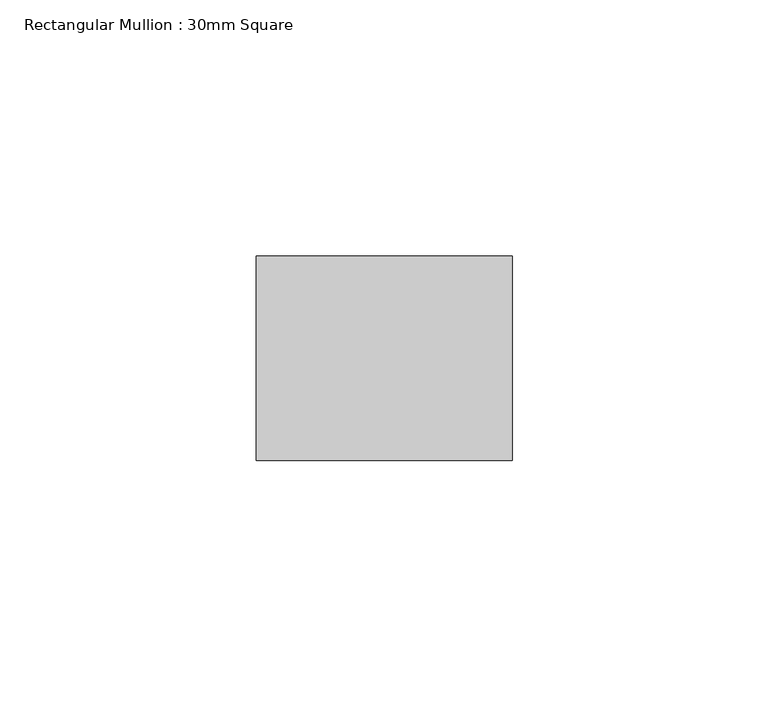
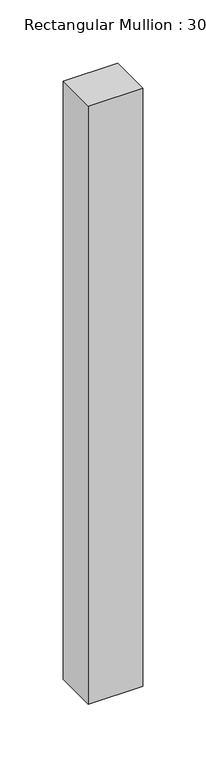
"""IFC4 building model written with IfcOpenShell, lengths in millimetres: member geometry, Rectangular Mullion : 30mm Square."""

import ifcopenshell
import ifcopenshell.guid

model = None  # the IFC model being written
_history = None  # IfcOwnerHistory: only IFC2X3 demands one
_inside = {}  # id of a spatial element -> (the spatial element, [elements in it])
_under = {}  # id of a project, library or spatial element -> (it, [spatial elements below it])
_declared = {}  # id of a project -> (the project, [libraries it declares])
_typed = {}  # id of a type object -> (the type object, [elements of that type])
_made_of = {}  # id of a material, layer set ... -> (it, [elements and type objects made of it])


def new_model(schema):
    """Start an empty IFC model of exactly this schema.

    Asked for "IFC4X3", IfcOpenShell would pick the latest addendum, in which some entities
    have other attributes; the version numbers below select the first issue.
    IFC2X3 requires an IfcOwnerHistory on every rooted entity: one is made here for all.
    """
    global model, _history
    if schema == "IFC4X3":
        model = ifcopenshell.file(schema_version=(4, 3, 0, 0))
    else:
        model = ifcopenshell.file(schema=schema)
    _inside.clear()
    _under.clear()
    _declared.clear()
    _typed.clear()
    _made_of.clear()
    _history = None
    if model.schema == "IFC2X3":
        org = make("IfcOrganization", Name="unknown")
        user = make(
            "IfcPersonAndOrganization",
            ThePerson=make("IfcPerson", FamilyName="unknown"),
            TheOrganization=org,
        )
        app = make(
            "IfcApplication",
            ApplicationDeveloper=org,
            Version="unknown",
            ApplicationFullName="unknown",
            ApplicationIdentifier="unknown",
        )
        _history = make(
            "IfcOwnerHistory",
            OwningUser=user,
            OwningApplication=app,
            ChangeAction="ADDED",
            CreationDate=0,
        )
    return model


def make(cls, **values):
    """One entity of the class cls with the attributes given. An attribute that is None is left unset."""
    return model.create_entity(
        cls, **{name: value for name, value in values.items() if value is not None}
    )


def rooted(cls, **values):
    """An entity with a GlobalId (a new one), such as an element, a storey or a relation."""
    return make(cls, GlobalId=ifcopenshell.guid.new(), OwnerHistory=_history, **values)


def si_unit(unit_type, name, prefix=None):
    """IfcSIUnit, for example si_unit("LENGTHUNIT", "METRE", prefix="MILLI")."""
    return make("IfcSIUnit", UnitType=unit_type, Prefix=prefix, Name=name)


def assignment(units):
    """IfcUnitAssignment: the units of a project."""
    return None if units is None else make("IfcUnitAssignment", Units=units)


def point(xyz):
    """IfcCartesianPoint."""
    return None if xyz is None else make("IfcCartesianPoint", Coordinates=xyz)


def direction(xyz):
    """IfcDirection."""
    return None if xyz is None else make("IfcDirection", DirectionRatios=xyz)


def frame(location, z_axis=None, x_axis=None):
    """IfcAxis2Placement3D, a coordinate frame: its origin and axes. An axis left out is left unset."""
    return make(
        "IfcAxis2Placement3D",
        Location=point(location),
        Axis=direction(z_axis),
        RefDirection=direction(x_axis),
    )


def origin():
    """The frame at (0, 0, 0) with its axes left unset."""
    return frame((0.0, 0.0, 0.0))


def place(relative_to, where):
    """IfcLocalPlacement: puts the frame where relative to a parent placement (None: the world)."""
    return make(
        "IfcLocalPlacement", PlacementRelTo=relative_to, RelativePlacement=where
    )


def context(
    kind, dimensions, precision=None, world=None, true_north=None, identifier=None
):
    """IfcGeometricRepresentationContext, for example the 3D "Model" context."""
    return make(
        "IfcGeometricRepresentationContext",
        ContextIdentifier=identifier,
        ContextType=kind,
        CoordinateSpaceDimension=dimensions,
        Precision=precision,
        WorldCoordinateSystem=world,
        TrueNorth=true_north,
    )


def project(units=None, contexts=None):
    """IfcProject with its units and contexts."""
    return rooted(
        "IfcProject",
        Name="project",
        RepresentationContexts=contexts,
        UnitsInContext=assignment(units),
    )


def spatial(cls, under=None, at=None, **own):
    """A site, building, storey or space (cls), placed at a placement, below another one or the project."""
    s = rooted(cls, ObjectPlacement=at, **own)
    if under is not None:
        _under.setdefault(under.id(), (under, []))[1].append(s)
    return s


def polyline(points):
    """IfcPolyline through the points."""
    return make("IfcPolyline", Points=[point(p) for p in points])


def outline(outer, holes=None, kind="AREA"):
    """IfcArbitraryClosedProfileDef: a profile drawn as a closed curve; with holes, ...WithVoids."""
    if holes is None:
        return make("IfcArbitraryClosedProfileDef", ProfileType=kind, OuterCurve=outer)
    return make(
        "IfcArbitraryProfileDefWithVoids",
        ProfileType=kind,
        OuterCurve=outer,
        InnerCurves=holes,
    )


def extrude(swept, where, along, depth):
    """IfcExtrudedAreaSolid: the profile swept, set in the frame where, extruded along a direction by depth."""
    return make(
        "IfcExtrudedAreaSolid",
        SweptArea=swept,
        Position=where,
        ExtrudedDirection=direction(along),
        Depth=depth,
    )


def shape(context_of_items, identifier, shape_type, items):
    """IfcShapeRepresentation: the items that make up one representation, for example the "Body"."""
    return make(
        "IfcShapeRepresentation",
        ContextOfItems=context_of_items,
        RepresentationIdentifier=identifier,
        RepresentationType=shape_type,
        Items=items,
    )


def source(mapping_origin, context_of_items, identifier, shape_type, items):
    """IfcRepresentationMap: a shape defined once, which mapped items show again and again."""
    return make(
        "IfcRepresentationMap",
        MappingOrigin=mapping_origin,
        MappedRepresentation=shape(context_of_items, identifier, shape_type, items),
    )


def transform(
    local_origin,
    x_axis=None,
    y_axis=None,
    z_axis=None,
    scale=None,
    scale2=None,
    scale3=None,
    uniform=True,
):
    """IfcCartesianTransformationOperator3D, or its non-uniform kind. x_axis, y_axis, z_axis: its Axis1, 2, 3."""
    if uniform:
        return make(
            "IfcCartesianTransformationOperator3D",
            Axis1=direction(x_axis),
            Axis2=direction(y_axis),
            LocalOrigin=point(local_origin),
            Scale=scale,
            Axis3=direction(z_axis),
        )
    return make(
        "IfcCartesianTransformationOperator3DnonUniform",
        Axis1=direction(x_axis),
        Axis2=direction(y_axis),
        LocalOrigin=point(local_origin),
        Scale=scale,
        Axis3=direction(z_axis),
        Scale2=scale2,
        Scale3=scale3,
    )


def mapped(mapping_source, mapping_target):
    """IfcMappedItem: shows the shape of a source again, moved by a transform."""
    return make(
        "IfcMappedItem", MappingSource=mapping_source, MappingTarget=mapping_target
    )


def made_of(thing, what):
    """Note that an element or type object is made of a material, layer set ...; save() writes the relation."""
    if what is not None:
        _made_of.setdefault(what.id(), (what, []))[1].append(thing)
    return thing


def element(
    cls,
    number,
    at=None,
    inside=None,
    cuts=None,
    type_object=None,
    material=None,
    context=None,
    identifier="Body",
    shape_type=None,
    held_by="IfcProductDefinitionShape",
    body=None,
    shapes=None,
    **own,
):
    """One element of the class cls, such as IfcWall. Its Tag is "e" and its number.

    at: its placement. inside: the storey or other place that contains it. cuts: it is an
    opening in that element (IfcRelVoidsElement). A single representation is given by context,
    identifier, shape_type and body (its items); several are given by shapes. held_by: the class
    of the entity that holds the representations. save() writes the other relations.
    """
    e = rooted(cls, Tag="e%d" % number, ObjectPlacement=at, **own)
    if body is not None:
        shapes = [shape(context, identifier, shape_type, body)]
    if shapes is not None:
        e.Representation = make(held_by, Representations=shapes)
    if inside is not None:
        _inside.setdefault(inside.id(), (inside, []))[1].append(e)
    if cuts is not None:
        rooted(
            "IfcRelVoidsElement", RelatingBuildingElement=cuts, RelatedOpeningElement=e
        )
    if type_object is not None:
        _typed.setdefault(type_object.id(), (type_object, []))[1].append(e)
    return made_of(e, material)


def aggregate(whole, parts):
    """IfcRelAggregates: a whole, such as a stair, and the parts it consists of."""
    return rooted("IfcRelAggregates", RelatingObject=whole, RelatedObjects=parts)


def save(model, path):
    """Write the relations noted so far, then the file.

    IfcRelAggregates (storeys below a building ...), IfcRelContainedInSpatialStructure (elements
    in a storey), IfcRelDefinesByType, IfcRelAssociatesMaterial and IfcRelDeclares: one each for
    every whole, place, type object, material and project.
    """
    for whole, parts in _under.values():
        aggregate(whole, parts)
    for where, things in _inside.values():
        rooted(
            "IfcRelContainedInSpatialStructure",
            RelatedElements=things,
            RelatingStructure=where,
        )
    for kind, things in _typed.values():
        rooted("IfcRelDefinesByType", RelatedObjects=things, RelatingType=kind)
    for what, things in _made_of.values():
        rooted("IfcRelAssociatesMaterial", RelatedObjects=things, RelatingMaterial=what)
    for by, libraries in _declared.values():
        rooted("IfcRelDeclares", RelatingContext=by, RelatedDefinitions=libraries)
    model.write(path)


def rectangular_mullion_30mm_square_6dd94b54(model_context):
    return source(origin(), model_context, "Body", "SweptSolid", [
        extrude(outline(polyline([(0.0, 20.0), (0.0, -20.0), (-50.0, -20.0), (-50.0, 20.0), (0.0, 20.0)])), frame((0.0, 0.0, -580.0), z_axis=(0.0, 0.0, 1.0), x_axis=(1.0, 0.0, 0.0)), (0.0, 0.0, 1.0), 580.0),
    ])


if __name__ == "__main__":
    model = new_model("IFC4")
    model_context = context("Model", 3, world=origin())
    ifc_project = project(units=[si_unit("LENGTHUNIT", "METRE", prefix="MILLI")], contexts=[model_context])
    site = spatial("IfcSite", under=ifc_project)
    building = spatial("IfcBuilding", under=site)
    placement = place(None, origin())
    rectangular_mullion_30mm_square_shape = rectangular_mullion_30mm_square_6dd94b54(model_context)
    element("IfcMember", 1, ObjectType="Rectangular Mullion : 30mm Square", at=placement, inside=building, context=model_context, shape_type="MappedRepresentation", body=[
        mapped(rectangular_mullion_30mm_square_shape, transform((0.0, 0.0, 0.0), x_axis=(1.0, 0.0, 0.0), y_axis=(0.0, 1.0, 0.0), z_axis=(0.0, 0.0, 1.0))),
    ])
    save(model, "model.ifc")
